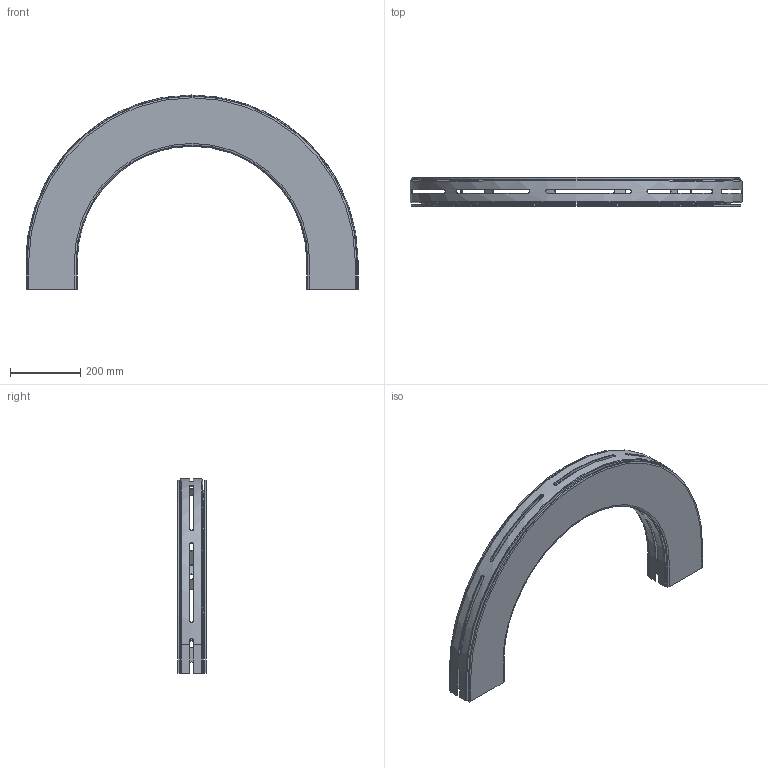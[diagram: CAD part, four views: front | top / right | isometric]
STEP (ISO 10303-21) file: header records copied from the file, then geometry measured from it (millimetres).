
FILE_DESCRIPTION(/* description */ ('GLIDKURVA SERIE 540'),/* implementation_level */ '2;1');
FILE_NAME(/* name */ '540-5375+140-2000-01.stp',/* time_stamp */ '2022-09-21T08:20:11+02:00',/* author */ ('Mathias.Dore'),/* organization */ ('CARRYLINE'),/* preprocessor_version */ 'ST-DEVELOPER v19.2',/* originating_system */ 'Autodesk Inventor 2023',/* authorisation */ '');
FILE_SCHEMA (('AUTOMOTIVE_DESIGN { 1 0 10303 214 3 1 1 }'));
Length unit declared in the file: millimetre
Products named in the file (1): 540-5375+140-2000-01
Bounding box: 946 x 82 x 553 mm (x, y, z)
Volume: 3199409.7 mm3; surface area: 1644571.1 mm2
Topology: 2 solids, 2 shells, 203 faces, 578 edges, 380 vertices
Faces by surface type: plane 129, bspline 34, cylinder 32, cone 4, torus 4
Entity records: 7809 total; most frequent: CARTESIAN_POINT 2504, ORIENTED_EDGE 1156, DIRECTION 970, EDGE_CURVE 578, LINE 390, VECTOR 390, VERTEX_POINT 380, AXIS2_PLACEMENT_3D 290
